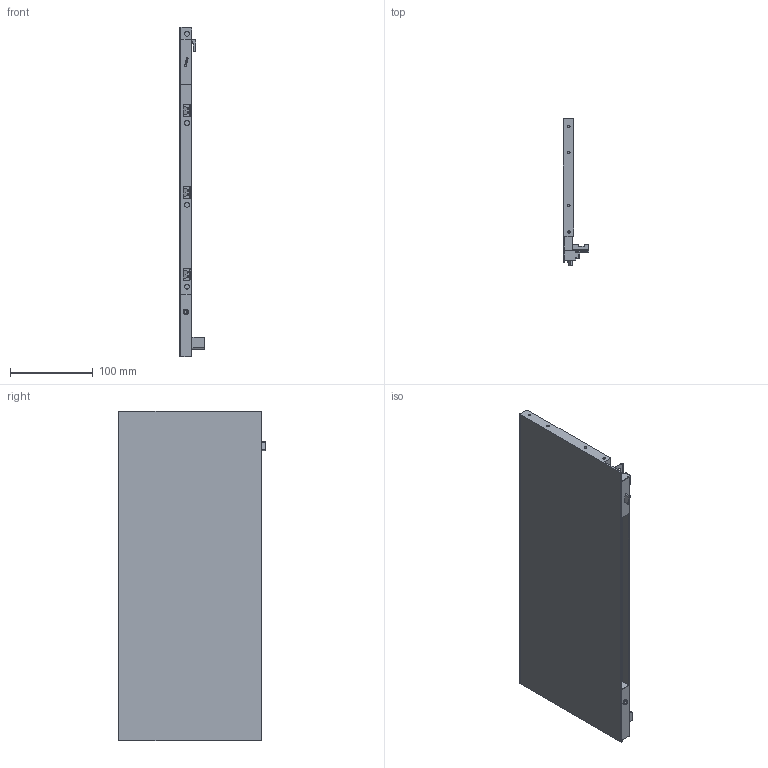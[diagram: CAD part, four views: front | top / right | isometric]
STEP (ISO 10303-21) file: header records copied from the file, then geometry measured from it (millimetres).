
FILE_DESCRIPTION (( 'STEP AP203' ), '1' );
FILE_NAME ('HT134001-L.STEP', '2021-03-16T02:36:21', ( 'Users' ), ( 'Microsoft' ), 'SwSTEP 2.0', 'SolidWorks 2018', '' );
FILE_SCHEMA (( 'CONFIG_CONTROL_DESIGN' ));
Length unit declared in the file: millimetre
Products named in the file (1): HT134001-L
Bounding box: 31.3 x 179 x 399 mm (x, y, z)
Volume: 785619.3 mm3; surface area: 174765.9 mm2
Topology: 1 solids, 8 shells, 408 faces, 1031 edges, 641 vertices
Faces by surface type: plane 201, cylinder 143, torus 29, bspline 23, cone 6, sphere 6
Entity records: 12714 total; most frequent: CARTESIAN_POINT 2978, ORIENTED_EDGE 2044, DIRECTION 1979, EDGE_CURVE 1022, AXIS2_PLACEMENT_3D 674, VERTEX_POINT 641, VECTOR 631, LINE 631
